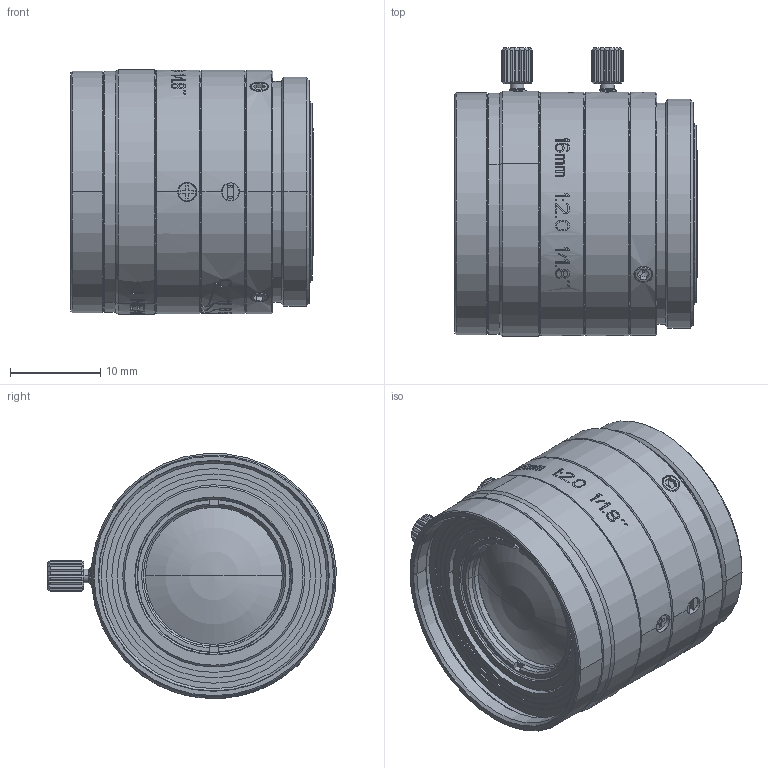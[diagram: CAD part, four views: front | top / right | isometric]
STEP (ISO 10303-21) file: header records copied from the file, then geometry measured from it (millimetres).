
FILE_DESCRIPTION((''),'2;1');
FILE_NAME('200_ASM_ASM','2022-08-05T17:02:04',('user'),(''),'CREO PARAMETRIC BY PTC INC, 2018020','CREO PARAMETRIC BY PTC INC, 2018020','');
FILE_SCHEMA(('CONFIG_CONTROL_DESIGN'));
Length unit declared in the file: millimetre
Products named in the file (21): 503_2; 501_6; 301_1; 511_1; 502_1; 305_1; 515_1; 202_ASM_1_ASM; 516_1; 201_ASM_6_ASM; 505_3; 508_2; M14302001_1; 506_5; 541_1; 507_3; JD20202002_1; FA2502A-531_3; GL_1; 200_ASM_4_ASM; 200_ASM_ASM
Assembly tree (24 placements, depth 5):
  200_ASM_ASM
    200_ASM_4_ASM
      503_2
      201_ASM_6_ASM
        501_6
        301_1
        511_1
        202_ASM_1_ASM
          502_1
          305_1
          515_1
        516_1
      505_3
      508_2
      M14302001_1  x2
      506_5
      541_1
      507_3
      JD20202002_1  x3
      FA2502A-531_3  x2
      GL_1
Bounding box: 26.85 x 31.97 x 27.15 mm (x, y, z)
Volume: 9821.9 mm3; surface area: 17252.6 mm2
Topology: 20 solids, 48 shells, 1757 faces, 5028 edges, 3397 vertices
Faces by surface type: plane 729, cylinder 397, bspline 394, cone 227, sphere 8, torus 2
Entity records: 68110 total; most frequent: CARTESIAN_POINT 28412, ORIENTED_EDGE 9026, DIRECTION 6972, EDGE_CURVE 4572, VERTEX_POINT 3094, AXIS2_PLACEMENT_3D 2665, EDGE_LOOP 1743, VECTOR 1642
